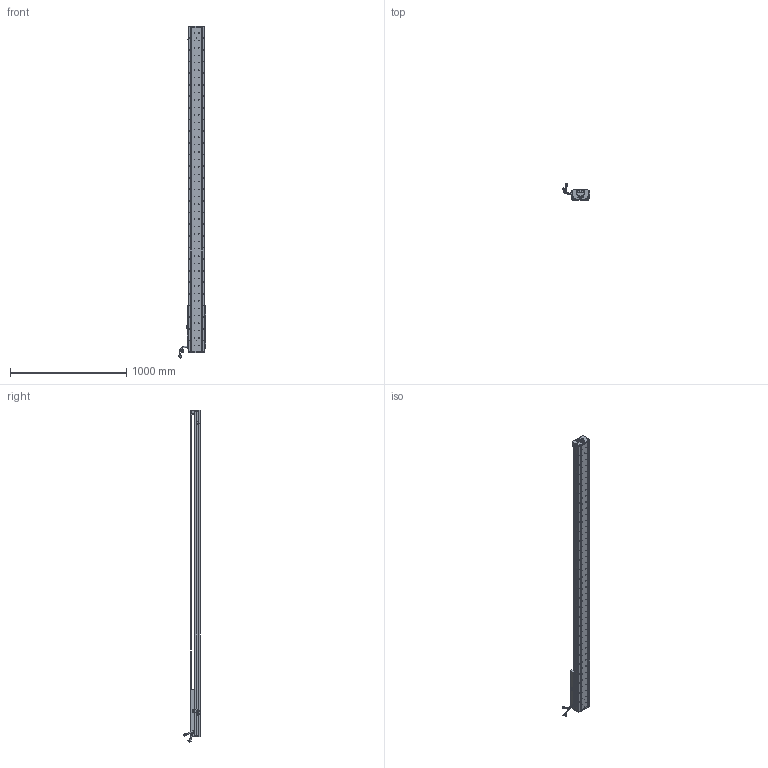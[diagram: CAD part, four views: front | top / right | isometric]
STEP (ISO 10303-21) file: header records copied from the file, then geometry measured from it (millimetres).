
FILE_DESCRIPTION (( 'STEP AP203' ), '1' );
FILE_NAME ('Z5-RY140D-1-L500-B-K.SLDASM_2350.step', '2021-05-17T08:39:47', ( '盈信电脑' ), ( '东莞市道滘镇水果街19号' ), 'SwSTEP 2.0', 'SolidWorks 2016', '' );
FILE_SCHEMA (( 'CONFIG_CONTROL_DESIGN' ));
Length unit declared in the file: millimetre
Products named in the file (36): LABEL-Part-1; SCALE-Part-2; COVER-Part-1; 詩湍狟揤裔; SHIELDPLATE; HARNESS-Part-1; PSLH080_PSLF2; 140蚥薯蝶輸; SCREW-M1.6-3; Z5-RY140-L500詩湍100mm遵_2350; SEAL; PBU_SHEET; Z5-RY140-L500直线电机模组底座_2350; 140雄赽晤鎢ん堤盄; SCREW-M1.7; 榋妏寠巭燃_暯_M2_2; 詩湍奻揤裔; Z-RY140感应器672光电感应片; 覜茼ん672; HOLDER0; HARNESS-Part-2; SCREW-M1.7-1; SCALE-Part-1; Z5-RY140圉猾敕臏賑輸(21遴); COVER; SCREW-M1.6; SCREW-M1.6-2; Z-140詩湍傷裔啣; LABEL; 080黍杅芛假蚾釱21遴; SCREW-M1.6-1; 140-Z-臏賑輸盄裔(21遴); SCALE; HARNESS; SEAL-Part-1; Z5-RY140D-1-L500-B-K.SLDASM_2350
Assembly tree (41 placements, depth 4):
  Z5-RY140D-1-L500-B-K.SLDASM_2350
    Z5-RY140-L500直线电机模组底座_2350
    Z-RY140感应器672光电感应片
    Z5-RY140圉猾敕臏賑輸(21遴)
    覜茼ん672  x3
    Z5-RY140-L500詩湍100mm遵_2350
    PSLH080_PSLF2
      SCALE
        SCALE-Part-1
        SCALE-Part-2
      HARNESS
        HARNESS-Part-1
        HARNESS-Part-2
      LABEL
        LABEL-Part-1
      COVER
        COVER-Part-1
      SEAL
        SEAL-Part-1
      榋妏寠巭燃_暯_M2_2
      SHIELDPLATE
      SCREW-M1.7
      SCREW-M1.7-1
      PBU_SHEET
      SCREW-M1.6
      SCREW-M1.6-1
      SCREW-M1.6-2
      SCREW-M1.6-3
      HOLDER0
    080黍杅芛假蚾釱21遴
    140-Z-臏賑輸盄裔(21遴)
    Z-140詩湍傷裔啣  x2
    詩湍狟揤裔  x2
    詩湍奻揤裔  x2
    140蚥薯蝶輸  x2
    140雄赽晤鎢ん堤盄
Bounding box: 239.79 x 143.88 x 2855.87 mm (x, y, z)
Volume: 9476546.2 mm3; surface area: 2429013.9 mm2
Topology: 36 solids, 36 shells, 4278 faces, 11646 edges, 7377 vertices
Faces by surface type: cylinder 2344, plane 1394, cone 418, torus 69, bspline 53
Entity records: 136202 total; most frequent: CARTESIAN_POINT 38381, ORIENTED_EDGE 20180, DIRECTION 18738, EDGE_CURVE 10090, AXIS2_PLACEMENT_3D 6998, VERTEX_POINT 6545, VECTOR 4742, LINE 4742
